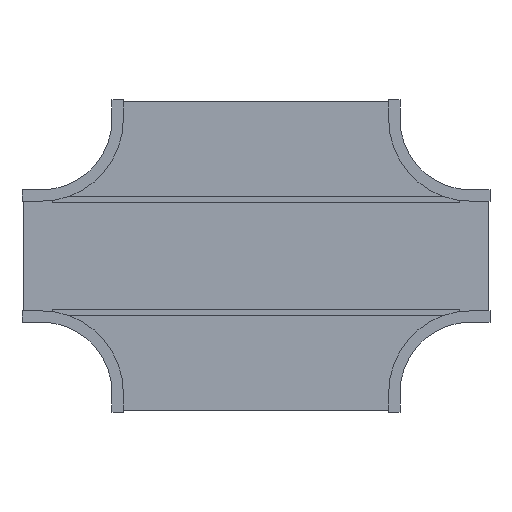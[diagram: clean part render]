
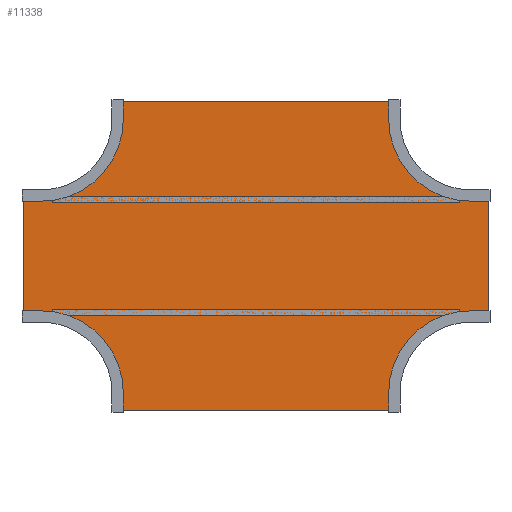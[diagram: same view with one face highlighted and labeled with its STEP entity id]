
A CAD part, front view. The second image highlights one B-rep face of the part: STEP entity #11338.
In plain terms, the highlighted planar face has unit normal (0, -1, 0).
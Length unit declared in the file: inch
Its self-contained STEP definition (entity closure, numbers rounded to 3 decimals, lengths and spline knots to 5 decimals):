
#11035=DIRECTION('',(0.,0.,1.));
#11036=VECTOR('',#11035,17.875);
#11037=CARTESIAN_POINT('',(-35.875,0.,-8.9375));
#11038=LINE('',#11037,#11036);
#11039=DIRECTION('',(1.,0.,0.));
#11040=VECTOR('',#11039,2.785);
#11041=CARTESIAN_POINT('',(-35.875,0.,8.9375));
#11042=LINE('',#11041,#11040);
#11043=CARTESIAN_POINT('',(-33.09,0.,21.09));
#11044=DIRECTION('',(0.,-1.,0.));
#11045=DIRECTION('',(0.,0.,-1.));
#11046=AXIS2_PLACEMENT_3D('',#11043,#11044,#11045);
#11048=DIRECTION('',(0.,0.,1.));
#11049=VECTOR('',#11048,2.785);
#11050=CARTESIAN_POINT('',(-20.9375,0.,21.09));
#11051=LINE('',#11050,#11049);
#11052=DIRECTION('',(1.,0.,0.));
#11053=VECTOR('',#11052,41.875);
#11054=CARTESIAN_POINT('',(-20.9375,0.,23.875));
#11055=LINE('',#11054,#11053);
#11056=DIRECTION('',(0.,0.,-1.));
#11057=VECTOR('',#11056,2.785);
#11058=CARTESIAN_POINT('',(20.9375,0.,23.875));
#11059=LINE('',#11058,#11057);
#11060=CARTESIAN_POINT('',(33.09,0.,21.09));
#11061=DIRECTION('',(0.,-1.,0.));
#11062=DIRECTION('',(-1.,0.,0.));
#11063=AXIS2_PLACEMENT_3D('',#11060,#11061,#11062);
#11065=DIRECTION('',(1.,0.,0.));
#11066=VECTOR('',#11065,2.785);
#11067=CARTESIAN_POINT('',(33.09,0.,8.9375));
#11068=LINE('',#11067,#11066);
#11069=DIRECTION('',(0.,0.,-1.));
#11070=VECTOR('',#11069,17.875);
#11071=CARTESIAN_POINT('',(35.875,0.,8.9375));
#11072=LINE('',#11071,#11070);
#11073=DIRECTION('',(-1.,0.,0.));
#11074=VECTOR('',#11073,2.785);
#11075=CARTESIAN_POINT('',(35.875,0.,-8.9375));
#11076=LINE('',#11075,#11074);
#11077=CARTESIAN_POINT('',(33.09,0.,-21.09));
#11078=DIRECTION('',(0.,-1.,0.));
#11079=DIRECTION('',(0.,0.,1.));
#11080=AXIS2_PLACEMENT_3D('',#11077,#11078,#11079);
#11082=DIRECTION('',(0.,0.,-1.));
#11083=VECTOR('',#11082,2.785);
#11084=CARTESIAN_POINT('',(20.9375,0.,-21.09));
#11085=LINE('',#11084,#11083);
#11086=DIRECTION('',(-1.,0.,0.));
#11087=VECTOR('',#11086,41.875);
#11088=CARTESIAN_POINT('',(20.9375,0.,-23.875));
#11089=LINE('',#11088,#11087);
#11090=DIRECTION('',(0.,0.,1.));
#11091=VECTOR('',#11090,2.785);
#11092=CARTESIAN_POINT('',(-20.9375,0.,-23.875));
#11093=LINE('',#11092,#11091);
#11094=CARTESIAN_POINT('',(-33.09,0.,-21.09));
#11095=DIRECTION('',(0.,-1.,0.));
#11096=DIRECTION('',(1.,0.,0.));
#11097=AXIS2_PLACEMENT_3D('',#11094,#11095,#11096);
#11099=DIRECTION('',(-1.,0.,0.));
#11100=VECTOR('',#11099,2.785);
#11101=CARTESIAN_POINT('',(-33.09,0.,-8.9375));
#11102=LINE('',#11101,#11100);
#11235=CARTESIAN_POINT('',(-35.875,0.,-8.9375));
#11236=CARTESIAN_POINT('',(-35.875,0.,8.9375));
#11237=VERTEX_POINT('',#11235);
#11238=VERTEX_POINT('',#11236);
#11239=CARTESIAN_POINT('',(-33.09,0.,8.9375));
#11240=VERTEX_POINT('',#11239);
#11241=CARTESIAN_POINT('',(-20.9375,0.,21.09));
#11242=VERTEX_POINT('',#11241);
#11243=CARTESIAN_POINT('',(-20.9375,0.,23.875));
#11244=VERTEX_POINT('',#11243);
#11245=CARTESIAN_POINT('',(20.9375,0.,23.875));
#11246=VERTEX_POINT('',#11245);
#11247=CARTESIAN_POINT('',(20.9375,0.,21.09));
#11248=VERTEX_POINT('',#11247);
#11249=CARTESIAN_POINT('',(33.09,0.,8.9375));
#11250=VERTEX_POINT('',#11249);
#11251=CARTESIAN_POINT('',(35.875,0.,8.9375));
#11252=VERTEX_POINT('',#11251);
#11253=CARTESIAN_POINT('',(35.875,0.,-8.9375));
#11254=VERTEX_POINT('',#11253);
#11255=CARTESIAN_POINT('',(33.09,0.,-8.9375));
#11256=VERTEX_POINT('',#11255);
#11257=CARTESIAN_POINT('',(20.9375,0.,-21.09));
#11258=VERTEX_POINT('',#11257);
#11259=CARTESIAN_POINT('',(20.9375,0.,-23.875));
#11260=VERTEX_POINT('',#11259);
#11261=CARTESIAN_POINT('',(-20.9375,0.,-23.875));
#11262=VERTEX_POINT('',#11261);
#11263=CARTESIAN_POINT('',(-20.9375,0.,-21.09));
#11264=VERTEX_POINT('',#11263);
#11265=CARTESIAN_POINT('',(-33.09,0.,-8.9375));
#11266=VERTEX_POINT('',#11265);
#11299=CARTESIAN_POINT('',(0.,0.,0.));
#11300=DIRECTION('',(0.,1.,0.));
#11301=DIRECTION('',(1.,0.,0.));
#11302=AXIS2_PLACEMENT_3D('',#11299,#11300,#11301);
#11303=PLANE('',#11302);
#11305=ORIENTED_EDGE('',*,*,#11304,.T.);
#11307=ORIENTED_EDGE('',*,*,#11306,.T.);
#11309=ORIENTED_EDGE('',*,*,#11308,.T.);
#11311=ORIENTED_EDGE('',*,*,#11310,.T.);
#11313=ORIENTED_EDGE('',*,*,#11312,.T.);
#11315=ORIENTED_EDGE('',*,*,#11314,.T.);
#11317=ORIENTED_EDGE('',*,*,#11316,.T.);
#11319=ORIENTED_EDGE('',*,*,#11318,.T.);
#11321=ORIENTED_EDGE('',*,*,#11320,.T.);
#11323=ORIENTED_EDGE('',*,*,#11322,.T.);
#11325=ORIENTED_EDGE('',*,*,#11324,.T.);
#11327=ORIENTED_EDGE('',*,*,#11326,.T.);
#11329=ORIENTED_EDGE('',*,*,#11328,.T.);
#11331=ORIENTED_EDGE('',*,*,#11330,.T.);
#11333=ORIENTED_EDGE('',*,*,#11332,.T.);
#11335=ORIENTED_EDGE('',*,*,#11334,.T.);
#11336=EDGE_LOOP('',(#11305,#11307,#11309,#11311,#11313,#11315,#11317,#11319,
#11321,#11323,#11325,#11327,#11329,#11331,#11333,#11335));
#11337=FACE_OUTER_BOUND('',#11336,.F.);
#11338=ADVANCED_FACE('',(#11337),#11303,.F.);
#11047=CIRCLE('',#11046,12.1525);
#11064=CIRCLE('',#11063,12.1525);
#11081=CIRCLE('',#11080,12.1525);
#11098=CIRCLE('',#11097,12.1525);
#11304=EDGE_CURVE('',#11237,#11238,#11038,.T.);
#11306=EDGE_CURVE('',#11238,#11240,#11042,.T.);
#11308=EDGE_CURVE('',#11240,#11242,#11047,.T.);
#11310=EDGE_CURVE('',#11242,#11244,#11051,.T.);
#11312=EDGE_CURVE('',#11244,#11246,#11055,.T.);
#11314=EDGE_CURVE('',#11246,#11248,#11059,.T.);
#11316=EDGE_CURVE('',#11248,#11250,#11064,.T.);
#11318=EDGE_CURVE('',#11250,#11252,#11068,.T.);
#11320=EDGE_CURVE('',#11252,#11254,#11072,.T.);
#11322=EDGE_CURVE('',#11254,#11256,#11076,.T.);
#11324=EDGE_CURVE('',#11256,#11258,#11081,.T.);
#11326=EDGE_CURVE('',#11258,#11260,#11085,.T.);
#11328=EDGE_CURVE('',#11260,#11262,#11089,.T.);
#11330=EDGE_CURVE('',#11262,#11264,#11093,.T.);
#11332=EDGE_CURVE('',#11264,#11266,#11098,.T.);
#11334=EDGE_CURVE('',#11266,#11237,#11102,.T.);
